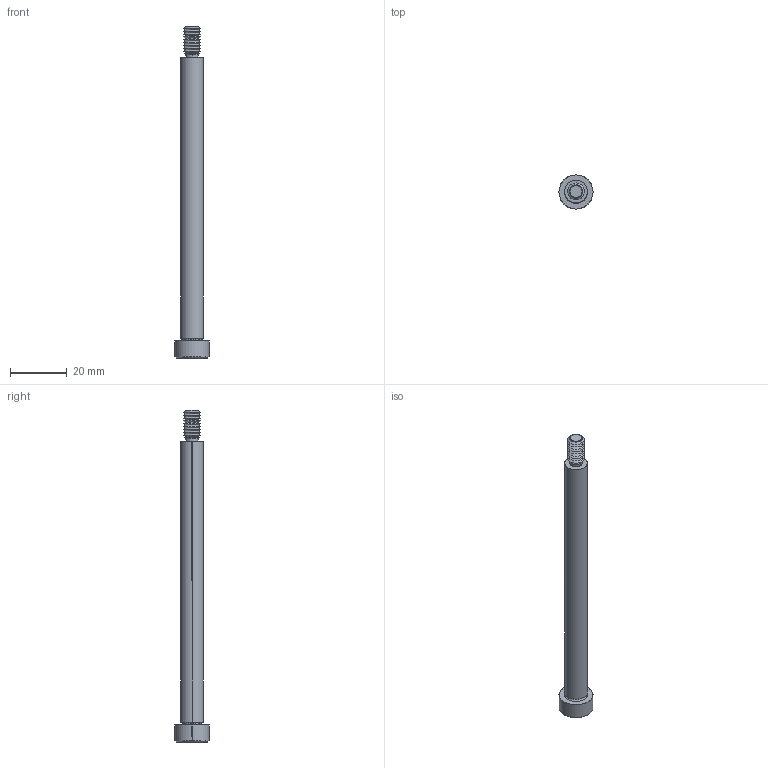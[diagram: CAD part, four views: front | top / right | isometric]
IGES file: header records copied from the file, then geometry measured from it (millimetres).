
Start section: SolidWorks IGES file using analytic representation for surfaces
Global section: file name: C:\Users\IanO\Documents\Temp Folder\GENERAL\SCREW REVISION\P0130_v2\P0130.T5_v2_20220106_IGES\P0130.080-100-T5.igs; native system: SolidWorks 2019; preprocessor: SolidWorks 2019; author: IanO; date: 220106.224001; units: millimetre
Bounding box: 12 x 12 x 117 mm (x, y, z)
Surface area: 3349.5 mm2 (no closed solid volume)
Topology: 0 solids, 0 shells, 80 faces, 580 edges, 578 vertices
Faces by surface type: revolution 60, bspline 20
